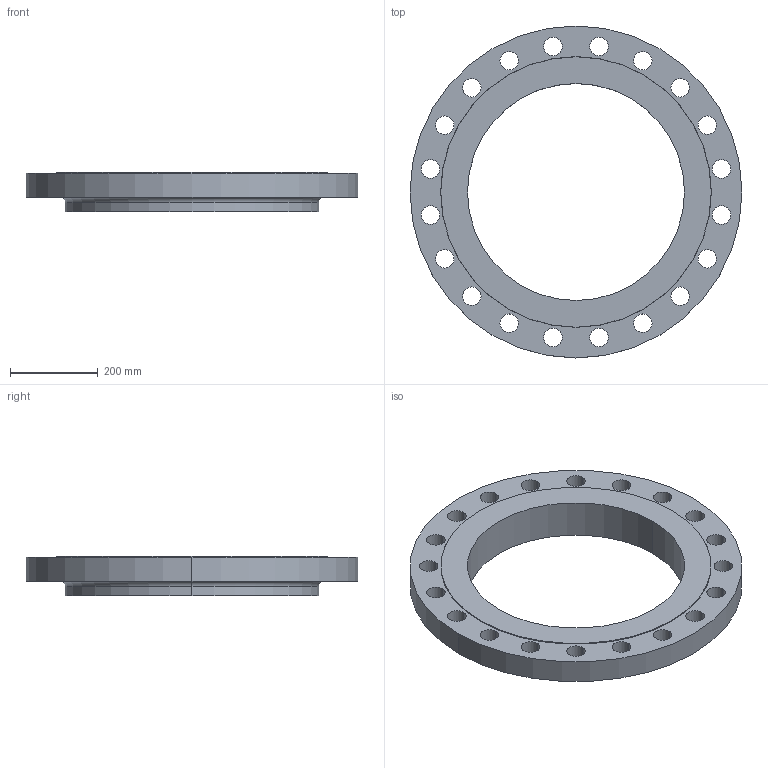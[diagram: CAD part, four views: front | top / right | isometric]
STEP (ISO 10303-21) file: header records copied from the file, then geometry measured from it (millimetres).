
FILE_DESCRIPTION (( 'STEP AP214' ), '1' );
FILE_NAME ('PN40 DN500 Type 13 - Type B Face.STEP', '2018-12-29T01:22:29', ( '' ), ( '' ), 'SwSTEP 2.0', 'SolidWorks 2019', '' );
FILE_SCHEMA (( 'AUTOMOTIVE_DESIGN' ));
Length unit declared in the file: millimetre
Products named in the file (1): PN40 DN500 Type 13 - Type B Face
Bounding box: 755 x 755 x 90 mm (x, y, z)
Volume: 15134242.9 mm3; surface area: 926247.6 mm2
Topology: 1 solids, 1 shells, 54 faces, 148 edges, 98 vertices
Faces by surface type: cylinder 46, plane 4, torus 2, cone 2
Entity records: 1894 total; most frequent: DIRECTION 358, CARTESIAN_POINT 301, ORIENTED_EDGE 296, AXIS2_PLACEMENT_3D 155, EDGE_CURVE 148, CIRCLE 100, VERTEX_POINT 98, EDGE_LOOP 98
